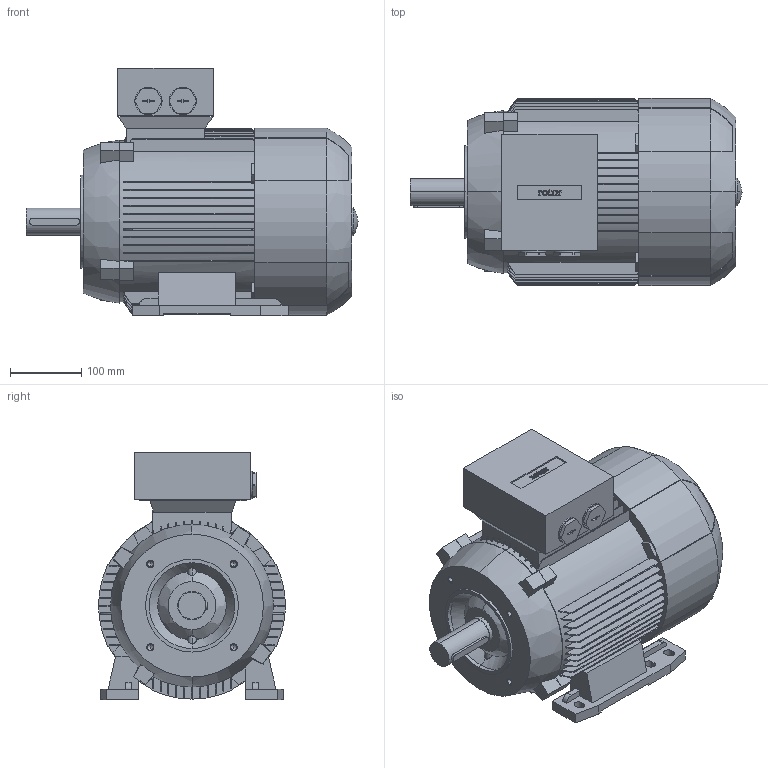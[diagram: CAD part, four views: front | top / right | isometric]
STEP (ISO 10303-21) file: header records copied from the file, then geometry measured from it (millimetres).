
FILE_DESCRIPTION (( 'STEP AP214' ), '1' );
FILE_NAME ('6RN132S04E20 IM2101.STEP', '2014-09-15T11:59:03', ( 'rbc_ict' ), ( 'REGAL' ), 'SwSTEP 2.0', 'SolidWorks 2012', '' );
FILE_SCHEMA (( 'AUTOMOTIVE_DESIGN' ));
Length unit declared in the file: millimetre
Products named in the file (1): 6RN132S04E20 IM2101
Bounding box: 465 x 262 x 347 mm (x, y, z)
Volume: 19353380.5 mm3; surface area: 771811.7 mm2
Topology: 1 solids, 1 shells, 680 faces, 1916 edges, 1258 vertices
Faces by surface type: plane 375, bspline 152, cylinder 131, cone 22
Entity records: 26627 total; most frequent: CARTESIAN_POINT 10009, ORIENTED_EDGE 3812, DIRECTION 2967, EDGE_CURVE 1906, VERTEX_POINT 1258, LINE 1095, VECTOR 1095, AXIS2_PLACEMENT_3D 936
